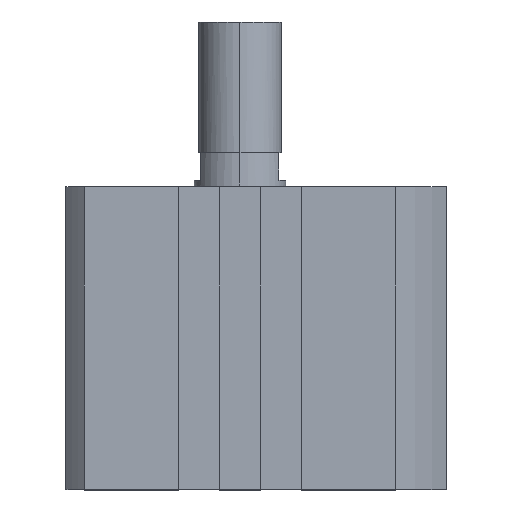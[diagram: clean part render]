
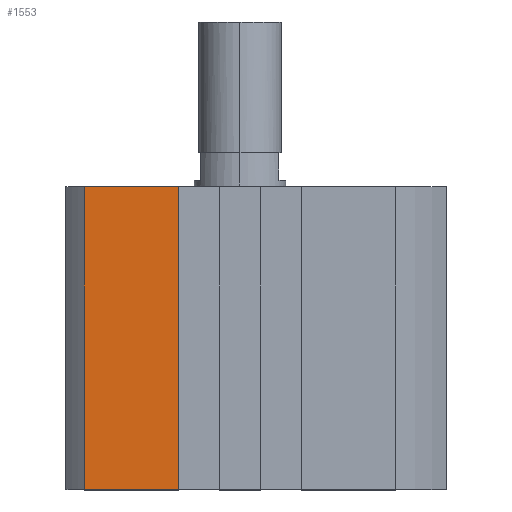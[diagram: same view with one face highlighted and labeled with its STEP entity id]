
A CAD part, top view. The second image highlights one B-rep face of the part: STEP entity #1553.
In plain terms, the highlighted planar face has unit normal (0, 0, 1).
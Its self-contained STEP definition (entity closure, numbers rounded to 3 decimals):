
#33 = DIRECTION ( 'NONE',  ( 1., 0., 0. ) ) ;
#113 = EDGE_CURVE ( 'NONE', #1918, #2124, #1860, .T. ) ;
#184 = LINE ( 'NONE', #2288, #1401 ) ;
#250 = ORIENTED_EDGE ( 'NONE', *, *, #113, .F. ) ;
#493 = CARTESIAN_POINT ( 'NONE',  ( -13.5, -66., 38. ) ) ;
#548 = EDGE_CURVE ( 'NONE', #3035, #2634, #184, .T. ) ;
#602 = DIRECTION ( 'NONE',  ( 0., 0., 1. ) ) ;
#679 = CARTESIAN_POINT ( 'NONE',  ( -34.015, 0., 38. ) ) ;
#742 = EDGE_CURVE ( 'NONE', #2634, #2124, #3380, .T. ) ;
#767 = DIRECTION ( 'NONE',  ( 0., 1., 0. ) ) ;
#861 = CARTESIAN_POINT ( 'NONE',  ( 0., -66., 38. ) ) ;
#894 = FACE_OUTER_BOUND ( 'NONE', #2206, .T. ) ;
#897 = AXIS2_PLACEMENT_3D ( 'NONE', #861, #602, #1653 ) ;
#959 = DIRECTION ( 'NONE',  ( 1., 0., 0. ) ) ;
#973 = EDGE_CURVE ( 'NONE', #3035, #1918, #3056, .T. ) ;
#1081 = ORIENTED_EDGE ( 'NONE', *, *, #973, .F. ) ;
#1162 = CARTESIAN_POINT ( 'NONE',  ( -13.5, -66., 38. ) ) ;
#1270 = VECTOR ( 'NONE', #767, 1000. ) ;
#1401 = VECTOR ( 'NONE', #959, 1000. ) ;
#1515 = CARTESIAN_POINT ( 'NONE',  ( -13.5, 0., 38. ) ) ;
#1536 = CARTESIAN_POINT ( 'NONE',  ( -34.015, -66., 38. ) ) ;
#1553 = ADVANCED_FACE ( 'NONE', ( #894 ), #2178, .T. ) ;
#1653 = DIRECTION ( 'NONE',  ( 1., 0., 0. ) ) ;
#1784 = ORIENTED_EDGE ( 'NONE', *, *, #548, .T. ) ;
#1860 = LINE ( 'NONE', #2954, #1916 ) ;
#1916 = VECTOR ( 'NONE', #33, 1000. ) ;
#1918 = VERTEX_POINT ( 'NONE', #679 ) ;
#1931 = ORIENTED_EDGE ( 'NONE', *, *, #742, .T. ) ;
#2124 = VERTEX_POINT ( 'NONE', #1515 ) ;
#2178 = PLANE ( 'NONE',  #897 ) ;
#2204 = CARTESIAN_POINT ( 'NONE',  ( -34.015, -66., 38. ) ) ;
#2206 = EDGE_LOOP ( 'NONE', ( #250, #1081, #1784, #1931 ) ) ;
#2288 = CARTESIAN_POINT ( 'NONE',  ( 0., -66., 38. ) ) ;
#2401 = VECTOR ( 'NONE', #2456, 1000. ) ;
#2456 = DIRECTION ( 'NONE',  ( 0., 1., 0. ) ) ;
#2634 = VERTEX_POINT ( 'NONE', #1162 ) ;
#2954 = CARTESIAN_POINT ( 'NONE',  ( 0., 0., 38. ) ) ;
#3035 = VERTEX_POINT ( 'NONE', #1536 ) ;
#3056 = LINE ( 'NONE', #2204, #2401 ) ;
#3380 = LINE ( 'NONE', #493, #1270 ) ;
